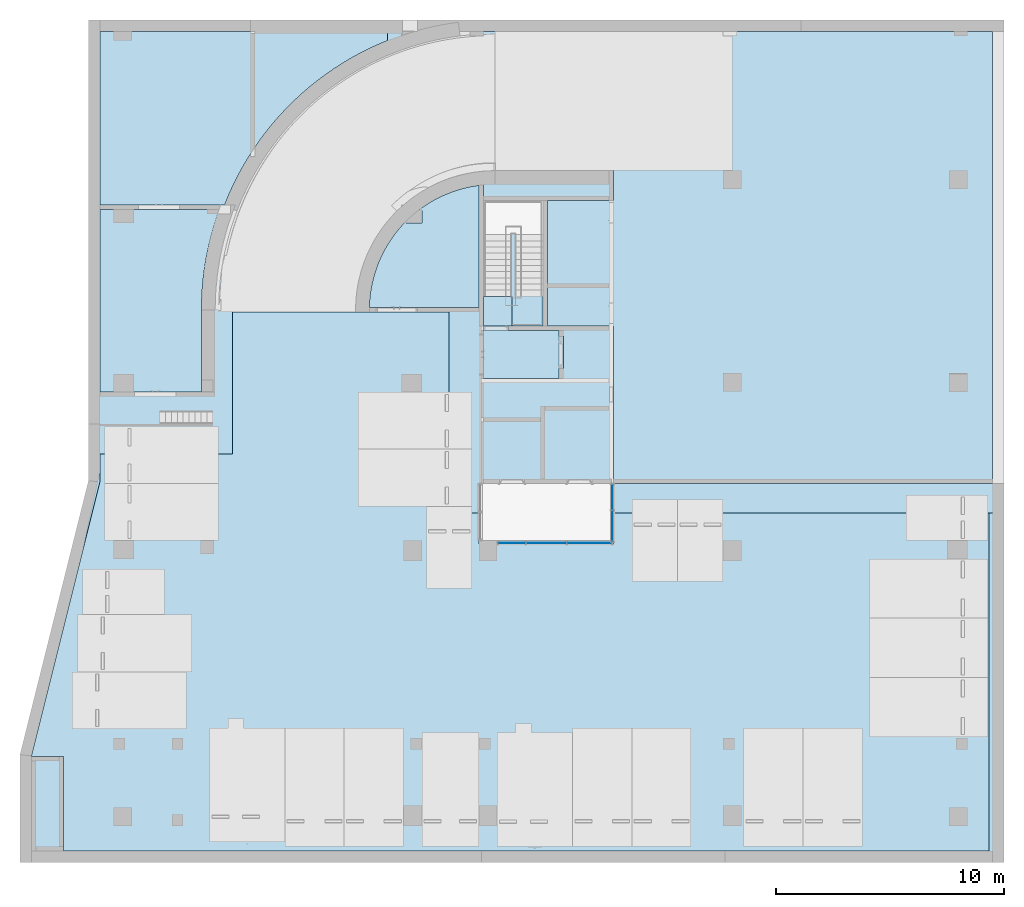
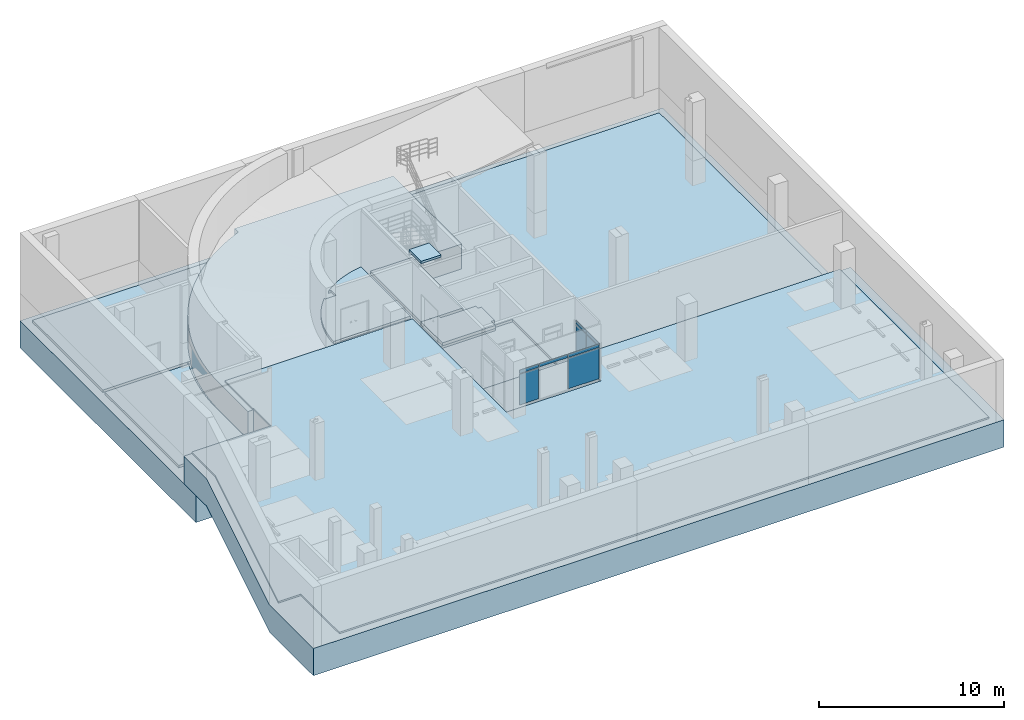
# One storey, part 4 of 30: 11 slabs, 9 plates, 3 elements without a shape of their own.
"""IFC2X3 building model written with IfcOpenShell, lengths in millimetres."""

from ifc_helpers import new_model, entity, si_unit, converted_unit, derived_unit, direction, frame, frame_2d, origin, origin_2d_with_axis, place, context, subcontext, project, spatial, polyline, circle_curve, parameter, trimmed, segment, composite_curve, rectangle, outline, extrude, source, transform, mapped, material, layer, layer_set, layer_usage, type_object, type_shapes, element, aggregate, save


model = new_model("IFC2X3")

# Units and contexts
model_context = context("Model", 3, precision=0.01, world=origin(), true_north=direction((6.123031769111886e-17, 1.0)))
body_context = subcontext(model_context, "Body", "Model", "MODEL_VIEW")
ifc_project = project(units=[si_unit("LENGTHUNIT", "METRE", prefix="MILLI"), si_unit("AREAUNIT", "SQUARE_METRE"), si_unit("VOLUMEUNIT", "CUBIC_METRE"), converted_unit("PLANEANGLEUNIT", "DEGREE", entity("IfcRatioMeasure", 0.017453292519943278), si_unit("PLANEANGLEUNIT", "RADIAN"), dimensions=[0, 0, 0, 0, 0, 0, 0]), si_unit("MASSUNIT", "GRAM", prefix="KILO"), derived_unit("MASSDENSITYUNIT", [(si_unit("MASSUNIT", "GRAM", prefix="KILO"), 1), (si_unit("LENGTHUNIT", "METRE"), -3)]), derived_unit("MOMENTOFINERTIAUNIT", [(si_unit("LENGTHUNIT", "METRE"), 4)]), si_unit("TIMEUNIT", "SECOND"), si_unit("FREQUENCYUNIT", "HERTZ"), si_unit("THERMODYNAMICTEMPERATUREUNIT", "DEGREE_CELSIUS"), derived_unit("THERMALTRANSMITTANCEUNIT", [(si_unit("MASSUNIT", "GRAM", prefix="KILO"), 1), (si_unit("THERMODYNAMICTEMPERATUREUNIT", "KELVIN"), -1), (si_unit("TIMEUNIT", "SECOND"), -3)]), derived_unit("VOLUMETRICFLOWRATEUNIT", [(si_unit("LENGTHUNIT", "METRE"), 3), (si_unit("TIMEUNIT", "SECOND"), -1)]), derived_unit("MASSFLOWRATEUNIT", [(si_unit("MASSUNIT", "GRAM", prefix="KILO"), 1), (si_unit("TIMEUNIT", "SECOND"), -1)]), derived_unit("ROTATIONALFREQUENCYUNIT", [(si_unit("TIMEUNIT", "SECOND"), -1)]), si_unit("ELECTRICCURRENTUNIT", "AMPERE"), si_unit("ELECTRICVOLTAGEUNIT", "VOLT"), si_unit("POWERUNIT", "WATT"), si_unit("FORCEUNIT", "NEWTON", prefix="KILO"), si_unit("ILLUMINANCEUNIT", "LUX"), si_unit("LUMINOUSFLUXUNIT", "LUMEN"), si_unit("LUMINOUSINTENSITYUNIT", "CANDELA"), derived_unit("USERDEFINED", [(si_unit("MASSUNIT", "GRAM", prefix="KILO"), -1), (si_unit("LENGTHUNIT", "METRE"), -2), (si_unit("TIMEUNIT", "SECOND"), 3), (si_unit("LUMINOUSFLUXUNIT", "LUMEN"), 1)]), derived_unit("SOUNDPOWERUNIT", [(si_unit("MASSUNIT", "GRAM", prefix="KILO"), 1), (si_unit("LENGTHUNIT", "METRE"), 2), (si_unit("TIMEUNIT", "SECOND"), -3)]), derived_unit("SOUNDPRESSUREUNIT", [(si_unit("MASSUNIT", "GRAM", prefix="KILO"), 1), (si_unit("LENGTHUNIT", "METRE"), -1), (si_unit("TIMEUNIT", "SECOND"), -2)]), derived_unit("LINEARVELOCITYUNIT", [(si_unit("LENGTHUNIT", "METRE"), 1), (si_unit("TIMEUNIT", "SECOND"), -1)]), si_unit("PRESSUREUNIT", "PASCAL"), derived_unit("USERDEFINED", [(si_unit("LENGTHUNIT", "METRE"), -2), (si_unit("MASSUNIT", "GRAM", prefix="KILO"), 1), (si_unit("TIMEUNIT", "SECOND"), -2)]), derived_unit("LINEARFORCEUNIT", [(si_unit("MASSUNIT", "GRAM", prefix="KILO"), 1), (si_unit("LENGTHUNIT", "METRE"), 1), (si_unit("TIMEUNIT", "SECOND"), -2), (si_unit("LENGTHUNIT", "METRE"), -1)]), derived_unit("PLANARFORCEUNIT", [(si_unit("MASSUNIT", "GRAM", prefix="KILO"), 1), (si_unit("LENGTHUNIT", "METRE"), 1), (si_unit("TIMEUNIT", "SECOND"), -2), (si_unit("LENGTHUNIT", "METRE"), -2)])], contexts=[model_context])

# Site, building, storey
site_placement = place(None, frame((-14167.972527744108, -657.2125860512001, 0.0)))
site = spatial("IfcSite", under=ifc_project, at=site_placement, Name="Default", CompositionType="ELEMENT")
building_placement = place(site_placement, origin())
building = spatial("IfcBuilding", under=site, at=building_placement, Name="Sample Building", CompositionType="ELEMENT")
storey_placement = place(building_placement, frame((0.0, 0.0, -10100.0)))
storey = spatial("IfcBuildingStorey", under=building, at=storey_placement, Name="지하2층", CompositionType="ELEMENT", Elevation=-10100.0)

# Slabs
ifc_material_1 = material(Name="KBIMS-콘크리트")
ifc_layer_1 = layer(ifc_material_1, 1800.0000000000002)
ifc_layer_set_1 = layer_set([ifc_layer_1], Name="기초 슬래브:FT113-매트기초(기초슬래브)_MF1_1800mm")
ifc_layer_usage_1 = layer_usage(ifc_layer_set_1, "AXIS3", "POSITIVE", 0.0)
slab_type_1 = type_object("IfcSlabType", Name="기초 슬래브:FT113-매트기초(기초슬래브)_MF1_1800mm", PredefinedType="BASESLAB", material=ifc_layer_set_1)
slab_1_placement = place(storey_placement, origin())
element("IfcSlab", 1, at=slab_1_placement, inside=storey, type_object=slab_type_1, material=ifc_layer_usage_1, Name="기초 슬래브:FT113-매트기초(기초슬래브)_MF1_1800mm", ObjectType="기초 슬래브:FT113-매트기초(기초슬래브)_MF1_1800mm", PredefinedType="BASESLAB", context=body_context, shape_type="SweptSolid", body=[
    extrude(outline(composite_curve([segment(polyline([(-20735.97253739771, -16272.015692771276), (-16011.351412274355, -16272.015692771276)]), True, "CONTINUOUS"), segment(polyline([(-16011.351412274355, -16272.015692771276), (-4011.3514122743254, -13272.01569277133)]), True, "CONTINUOUS"), segment(polyline([(-4011.3514122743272, -13272.01569277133), (-1535.9725373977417, -13272.015692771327)]), True, "CONTINUOUS"), segment(polyline([(-1535.9725373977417, -13272.015692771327), (-1535.9725373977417, -7822.024385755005)]), True, "CONTINUOUS"), segment(polyline([(-1535.9725373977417, -7822.024385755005), (364.02746260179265, -7822.024385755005)]), True, "CONTINUOUS"), segment(polyline([(364.02746260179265, -7822.024385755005), (364.02746260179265, -8172.022483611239)]), True, "CONTINUOUS"), segment(polyline([(364.02746260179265, -8172.022483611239), (3464.0552830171, -8172.01569274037)]), True, "CONTINUOUS"), segment(trimmed(circle_curve(frame_2d((3464.027462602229, 4527.984307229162), x_axis=(2.1905834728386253e-06, -1.0)), 12700.000000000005), [parameter(0.0)], [parameter(68.27940101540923)], True, "PARAMETER"), True, "CONTINUOUS"), segment(polyline([(15262.33242560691, -172.0156927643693), (15663.992779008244, -172.0156927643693)]), True, "CONTINUOUS"), segment(polyline([(15663.992779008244, -172.0156927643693), (15663.992779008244, 9727.984307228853)]), True, "CONTINUOUS"), segment(polyline([(15663.992779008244, 9727.984307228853), (8264.027462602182, 9727.98430722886)]), True, "CONTINUOUS"), segment(polyline([(8264.027462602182, 9727.98430722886), (8264.027462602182, 5327.984307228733)]), True, "CONTINUOUS"), segment(polyline([(8264.027462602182, 5327.984307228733), (2764.0274659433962, 5327.984307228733)]), True, "CONTINUOUS"), segment(polyline([(2764.0274659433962, 5327.984307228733), (2764.0274659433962, 3826.1376305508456)]), True, "CONTINUOUS"), segment(polyline([(2764.0274659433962, 3826.1376305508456), (-4135.972537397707, 3826.1376305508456)]), True, "CONTINUOUS"), segment(polyline([(-4135.972537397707, 3826.1376305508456), (-4135.972537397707, 26827.984307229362)]), True, "CONTINUOUS"), segment(polyline([(-4135.972537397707, 26827.984307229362), (-20735.97253739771, 26827.984307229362)]), True, "CONTINUOUS"), segment(polyline([(-20735.97253739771, 26827.984307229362), (-20735.97253739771, -16272.015692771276)]), True, "CONTINUOUS")], self_intersect=False)), frame((26239.98818390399, 19693.184845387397, 0.0), z_axis=(0.0, 0.0, -1.0), x_axis=(0.0, 1.0, 0.0)), (0.0, 0.0, 1.0), 1800.0000000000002),
])
ifc_layer_usage_2 = layer_usage(ifc_layer_set_1, "AXIS3", "POSITIVE", 0.0)
slab_type_2 = type_object("IfcSlabType", Name="기초 슬래브:FT113-매트기초(기초슬래브)_MF1_1800mm", PredefinedType="BASESLAB", material=ifc_layer_set_1)
slab_2_placement = place(storey_placement, origin())
element("IfcSlab", 2, at=slab_2_placement, inside=storey, type_object=slab_type_2, material=ifc_layer_usage_2, Name="기초 슬래브:FT113-매트기초(기초슬래브)_MF1_1800mm", ObjectType="기초 슬래브:FT113-매트기초(기초슬래브)_MF1_1800mm", PredefinedType="BASESLAB", context=body_context, shape_type="SweptSolid", body=[
    extrude(outline(composite_curve([segment(polyline([(-10172.905853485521, -6899.997102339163), (8827.094146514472, -6899.997102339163)]), True, "CONTINUOUS"), segment(polyline([(8827.094146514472, -6899.997102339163), (8827.094146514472, 7500.0028976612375)]), True, "CONTINUOUS"), segment(polyline([(8827.094146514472, 7500.0028976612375), (6764.529267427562, 7500.002897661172)]), True, "CONTINUOUS"), segment(trimmed(circle_curve(frame_2d((-4072.905853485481, 10700.002897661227), x_axis=(0.959065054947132, -0.283185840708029)), 11299.999999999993), [parameter(286.450438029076)], [parameter(0.0)], True, "PARAMETER"), False, "CONTINUOUS"), segment(polyline([(-4072.9058534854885, -600.0057953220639), (-10172.905853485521, -600.0057953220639)]), True, "CONTINUOUS"), segment(polyline([(-10172.905853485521, -600.0057953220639), (-10172.905853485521, -6899.997102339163)]), True, "CONTINUOUS")], self_intersect=False)), frame((19867.96959347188, 27030.118161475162, -1800.0), z_axis=(0.0, 0.0, -1.0), x_axis=(0.0, 1.0, 0.0)), (0.0, 0.0, 1.0), 1800.0000000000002),
])
ifc_material_2 = material(Name="SL671-에폭시페인트 바닥 (내산, 로울러칠, 3회)")
ifc_layer_2 = layer(ifc_material_2, 3.0)
ifc_material_3 = material(Name="SL582-무근콘크리트 바닥 97mm")
ifc_layer_3 = layer(ifc_material_3, 95.00000000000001)
ifc_material_4 = material(Name="SL789-와이어매쉬 #8 150x150")
ifc_layer_4 = layer(ifc_material_4, 1.0)
ifc_material_5 = material(Name="SL555-쇠흙손마감 바닥 (콘크리트면)")
ifc_layer_5 = layer(ifc_material_5, 1.0)
ifc_layer_set_2 = layer_set([ifc_layer_2, ifc_layer_3, ifc_layer_4, ifc_layer_5], Name="바닥:A1-12-09B-쇠흙손마감, 와이어매쉬(#8 150x150), 무근콘크리트, 에폭시페인트 (100mm)")
ifc_layer_usage_3 = layer_usage(ifc_layer_set_2, "AXIS3", "POSITIVE", 0.0)
slab_type_3 = type_object("IfcSlabType", Name="바닥:A1-12-09B-쇠흙손마감, 와이어매쉬(#8 150x150), 무근콘크리트, 에폭시페인트 (100mm)", PredefinedType="FLOOR", material=ifc_layer_set_2)
slab_3_placement = place(storey_placement, origin())
element("IfcSlab", 3, at=slab_3_placement, inside=storey, type_object=slab_type_3, material=ifc_layer_usage_3, Name="바닥:A1-12-09B-쇠흙손마감, 와이어매쉬(#8 150x150), 무근콘크리트, 에폭시페인트 (100mm)", ObjectType="바닥:A1-12-09B-쇠흙손마감, 와이어매쉬(#8 150x150), 무근콘크리트, 에폭시페인트 (100mm)", PredefinedType="FLOOR", context=body_context, shape_type="SweptSolid", body=[
    extrude(outline(polyline([(-27637.199280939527, -13958.06298623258), (12897.695211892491, -13958.06298623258), (12897.695211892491, -9812.36147357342), (14312.03683858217, -9812.36147357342), (11307.6951386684, 2205.005326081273), (11307.695138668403, 4741.937013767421), (6357.703831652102, 4741.937013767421), (6357.703831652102, 6641.937013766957), (6407.699669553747, 6641.937013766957), (6407.69307977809, 9650.173185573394), (-5292.304833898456, 9650.173185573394), (-5292.304833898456, -508.0627081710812), (-11197.304861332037, -508.0627081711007), (-11197.304861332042, 2141.937291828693), (-27637.199280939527, 2141.937291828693), (-27637.199280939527, -13958.06298623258)])), frame((24775.66762980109, 13415.275294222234, 100.0), z_axis=(0.0, 0.0, -1.0), x_axis=(-1.0, 0.0, 0.0)), (0.0, 0.0, 1.0), 99.99999999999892),
])
ifc_material_6 = material(Name="SL322-대리석물갈기 바닥 (바탕60mm, 마감20mm)")
ifc_layer_6 = layer(ifc_material_6, 80.0)
ifc_material_7 = material(Name="SL582-무근콘크리트 바닥 100mm")
ifc_layer_7 = layer(ifc_material_7, 99.0)
ifc_layer_8 = layer(ifc_material_4, 1.0)
ifc_material_8 = material(Name="SL553-보호모르타르 바닥 20mm")
ifc_layer_9 = layer(ifc_material_8, 18.0)
ifc_material_9 = material(Name="SL541-침투성방수 바닥")
ifc_layer_10 = layer(ifc_material_9, 1.0)
ifc_layer_11 = layer(ifc_material_5, 1.0)
ifc_layer_set_3 = layer_set([ifc_layer_6, ifc_layer_7, ifc_layer_8, ifc_layer_9, ifc_layer_10, ifc_layer_11], Name="바닥:A1-15-09B-쇠흙손마감, 침투성방수(2차), 시멘트모르타르(보호용), 와이어매쉬(#8 150x150), 무근콘크리트, 대리석(물갈기) (200mm)")
ifc_layer_usage_4 = layer_usage(ifc_layer_set_3, "AXIS3", "POSITIVE", 0.0)
slab_type_4 = type_object("IfcSlabType", Name="바닥:A1-15-09B-쇠흙손마감, 침투성방수(2차), 시멘트모르타르(보호용), 와이어매쉬(#8 150x150), 무근콘크리트, 대리석(물갈기) (200mm)", PredefinedType="FLOOR", material=ifc_layer_set_3)
slab_4_placement = place(storey_placement, origin())
element("IfcSlab", 4, at=slab_4_placement, inside=storey, type_object=slab_type_4, material=ifc_layer_usage_4, Name="바닥:A1-15-09B-쇠흙손마감, 침투성방수(2차), 시멘트모르타르(보호용), 와이어매쉬(#8 150x150), 무근콘크리트, 대리석(물갈기) (200mm)", ObjectType="바닥:A1-15-09B-쇠흙손마감, 침투성방수(2차), 시멘트모르타르(보호용), 와이어매쉬(#8 150x150), 무근콘크리트, 대리석(물갈기) (200mm)", PredefinedType="FLOOR", context=body_context, shape_type="SweptSolid", body=[
    extrude(rectangle(XDim=5499.999996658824, YDim=2601.8466766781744, at=origin_2d_with_axis()), frame((31567.049152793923, 25207.21230966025, 200.0), z_axis=(0.0, 0.0, -1.0), x_axis=(0.0, 1.0, 0.0)), (0.0, 0.0, 1.0), 200.0),
])
ifc_layer_usage_5 = layer_usage(ifc_layer_set_3, "AXIS3", "POSITIVE", 0.0)
slab_type_5 = type_object("IfcSlabType", Name="바닥:A1-15-09B-쇠흙손마감, 침투성방수(2차), 시멘트모르타르(보호용), 와이어매쉬(#8 150x150), 무근콘크리트, 대리석(물갈기) (200mm)", PredefinedType="FLOOR", material=ifc_layer_set_3)
slab_5_placement = place(storey_placement, origin())
element("IfcSlab", 5, at=slab_5_placement, inside=storey, type_object=slab_type_5, material=ifc_layer_usage_5, Name="바닥:A1-15-09B-쇠흙손마감, 침투성방수(2차), 시멘트모르타르(보호용), 와이어매쉬(#8 150x150), 무근콘크리트, 대리석(물갈기) (200mm)", ObjectType="바닥:A1-15-09B-쇠흙손마감, 침투성방수(2차), 시멘트모르타르(보호용), 와이어매쉬(#8 150x150), 무근콘크리트, 대리석(물갈기) (200mm)", PredefinedType="FLOOR", context=body_context, shape_type="SweptSolid", body=[
    extrude(outline(polyline([(-1467.0439162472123, -1868.2055462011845), (632.956087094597, -1868.2055462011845), (632.9560870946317, -1866.3589226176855), (832.9560870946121, -1866.3589226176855), (832.9560870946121, -766.3589226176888), (632.956087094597, -766.3589226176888), (632.956087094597, 1433.6411304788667), (395.21956953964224, 1433.6411304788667), (395.21956953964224, 1633.6411304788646), (-1027.0439145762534, 1633.6411304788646), (-1027.0439145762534, 1433.6411304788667), (-1467.0439162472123, 1433.6411304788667), (-1467.0439162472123, -1868.2055462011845)])), frame((32134.33136065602, 21624.25622423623, 200.0), z_axis=(0.0, 0.0, -1.0), x_axis=(0.0, 1.0, 0.0)), (0.0, 0.0, 1.0), 200.0),
])
ifc_material_10 = material(Name="SL661-우레탄페인트 바닥")
ifc_layer_12 = layer(ifc_material_10, 1.0)
ifc_material_11 = material(Name="SL552-바탕고르기(시멘트모르타르) 바닥 30mm")
ifc_layer_13 = layer(ifc_material_11, 29.0)
ifc_layer_14 = layer(ifc_material_7, 99.0)
ifc_layer_15 = layer(ifc_material_4, 1.0)
ifc_material_12 = material(Name="SL531-시멘트액체방수 바닥 (2차 30mm)")
ifc_layer_16 = layer(ifc_material_12, 30.0)
ifc_layer_set_4 = layer_set([ifc_layer_12, ifc_layer_13, ifc_layer_14, ifc_layer_15, ifc_layer_16], Name="바닥:A1-12-13B-시멘트 액체방수(2차), 와이어매쉬(#8 150x150), 무근콘크리트, 시멘트모르타르(고름용), 우레탄페인트 (160mm)")
ifc_layer_usage_6 = layer_usage(ifc_layer_set_4, "AXIS3", "POSITIVE", 0.0)
slab_type_6 = type_object("IfcSlabType", Name="바닥:A1-12-13B-시멘트 액체방수(2차), 와이어매쉬(#8 150x150), 무근콘크리트, 시멘트모르타르(고름용), 우레탄페인트 (160mm)", PredefinedType="FLOOR", material=ifc_layer_set_4)
slab_6_placement = place(storey_placement, origin())
element("IfcSlab", 6, at=slab_6_placement, inside=storey, type_object=slab_type_6, material=ifc_layer_usage_6, Name="바닥:A1-12-13B-시멘트 액체방수(2차), 와이어매쉬(#8 150x150), 무근콘크리트, 시멘트모르타르(고름용), 우레탄페인트 (160mm)", ObjectType="바닥:A1-12-13B-시멘트 액체방수(2차), 와이어매쉬(#8 150x150), 무근콘크리트, 시멘트모르타르(고름용), 우레탄페인트 (160mm)", PredefinedType="FLOOR", context=body_context, shape_type="SweptSolid", body=[
    extrude(outline(composite_curve([segment(polyline([(-2351.731369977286, 3133.677072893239), (-2351.731369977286, -2221.3583295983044)]), True, "CONTINUOUS"), segment(trimmed(circle_curve(frame_2d((-3053.5780466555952, 3233.677072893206), x_axis=(0.6090869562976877, -0.7931034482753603)), 5500.00000000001), [parameter(329.807904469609)], [parameter(0.0)], True, "PARAMETER"), True, "CONTINUOUS"), segment(polyline([(296.40021298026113, -1128.3918926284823), (146.4219167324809, -1128.3918926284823)]), True, "CONTINUOUS"), segment(polyline([(146.4219167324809, -1128.3918926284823), (146.4219167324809, -566.3229271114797)]), True, "CONTINUOUS"), segment(polyline([(146.4219167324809, -566.3229271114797), (834.3529531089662, -566.3229271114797)]), True, "CONTINUOUS"), segment(polyline([(834.3529531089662, -566.3229271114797), (834.3529531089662, -656.5661767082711)]), True, "CONTINUOUS"), segment(trimmed(circle_curve(frame_2d((-3053.5780466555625, 3233.6770728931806), x_axis=(0.9998346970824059, -0.01818181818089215)), 5499.999999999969), [parameter(316.02476629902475)], [parameter(0.0)], True, "PARAMETER"), True, "CONTINUOUS"), segment(polyline([(2445.5127872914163, 3133.677072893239), (-2351.731369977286, 3133.677072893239)]), True, "CONTINUOUS")], self_intersect=False)), frame((27714.39444447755, 26390.88938088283, 160.0), z_axis=(0.0, 0.0, 1.0), x_axis=(-1.0, 0.0, 0.0)), (0.0, 0.0, -1.0), 160.00000000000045),
])

# Curtain wall, plates
curtain_wall_type = type_object("IfcCurtainWallType", Name="커튼월:CW112-스테인리스 스틸 커튼월", PredefinedType="NOTDEFINED")
curtain_wall_1_placement = place(storey_placement, frame((0.0, 0.0, 10100.0)))
curtain_wall_1 = element("IfcCurtainWall", 7, at=curtain_wall_1_placement, inside=storey, type_object=curtain_wall_type, Name="커튼월:CW112-스테인리스 스틸 커튼월", ObjectType="커튼월:CW112-스테인리스 스틸 커튼월")
ifc_material_13 = material(Name="KBIMS-로이유리(코팅)")
plate_type_1 = type_object("IfcPlateType", Name="CW300-THK24.Low-e coating glass:CW300-THK24.Low-e coating glass", PredefinedType="CURTAIN_PANEL", material=ifc_material_13)
shared_shape_1 = source(origin(), body_context, "Body", "SweptSolid", [
    extrude(rectangle(XDim=1175.0000000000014, YDim=24.000000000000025, at=origin_2d_with_axis()), frame((0.0, 0.0, 0.0), z_axis=(0.0, 0.0, 1.0), x_axis=(-1.0, 0.0, 0.0)), (0.0, 0.0, 1.0), 2024.9999999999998),
])
type_shapes(plate_type_1, [shared_shape_1])
plate_1_placement = place(curtain_wall_1_placement, frame((31505.47249113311, 12957.212586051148, -9850.0)))
plate_1 = element("IfcPlate", 8, at=plate_1_placement, type_object=plate_type_1, material=ifc_material_13, Name="CW300-THK24.Low-e coating glass:CW300-THK24.Low-e coating glass", ObjectType="CW300-THK24.Low-e coating glass:CW300-THK24.Low-e coating glass", context=body_context, shape_type="MappedRepresentation", body=[
    mapped(shared_shape_1, transform((0.0, 0.0, 0.0), scale=1.0)),
])
plate_type_2 = type_object("IfcPlateType", Name="CW300-THK24.Low-e coating glass:CW300-THK24.Low-e coating glass", PredefinedType="CURTAIN_PANEL", material=ifc_material_13)
shared_shape_2 = source(origin(), body_context, "Body", "SweptSolid", [
    extrude(rectangle(XDim=1929.999999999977, YDim=24.000000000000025, at=origin_2d_with_axis()), frame((0.0, 0.0, 0.0), z_axis=(0.0, 0.0, 1.0), x_axis=(-1.0, 0.0, 0.0)), (0.0, 0.0, 1.0), 2024.9999999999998),
])
type_shapes(plate_type_2, [shared_shape_2])
plate_2_placement = place(curtain_wall_1_placement, frame((34907.972491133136, 12957.212586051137, -9850.0)))
plate_2 = element("IfcPlate", 9, at=plate_2_placement, type_object=plate_type_2, material=ifc_material_13, Name="CW300-THK24.Low-e coating glass:CW300-THK24.Low-e coating glass", ObjectType="CW300-THK24.Low-e coating glass:CW300-THK24.Low-e coating glass", context=body_context, shape_type="MappedRepresentation", body=[
    mapped(shared_shape_2, transform((0.0, 0.0, 0.0), scale=1.0)),
])
plate_type_3 = type_object("IfcPlateType", Name="CW300-THK24.Low-e coating glass:CW300-THK24.Low-e coating glass", PredefinedType="CURTAIN_PANEL", material=ifc_material_13)
shared_shape_3 = source(origin(), body_context, "Body", "SweptSolid", [
    extrude(rectangle(XDim=1175.0000000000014, YDim=24.000000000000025, at=origin_2d_with_axis()), frame((0.0, 0.0, 0.0), z_axis=(0.0, 0.0, 1.0), x_axis=(-1.0, 0.0, 0.0)), (0.0, 0.0, 1.0), 215.00000000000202),
])
type_shapes(plate_type_3, [shared_shape_3])
plate_3_placement = place(curtain_wall_1_placement, frame((31505.47249113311, 12957.212586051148, -7775.0)))
plate_3 = element("IfcPlate", 10, at=plate_3_placement, type_object=plate_type_3, material=ifc_material_13, Name="CW300-THK24.Low-e coating glass:CW300-THK24.Low-e coating glass", ObjectType="CW300-THK24.Low-e coating glass:CW300-THK24.Low-e coating glass", context=body_context, shape_type="MappedRepresentation", body=[
    mapped(shared_shape_3, transform((0.0, 0.0, 0.0), scale=1.0)),
])
plate_type_4 = type_object("IfcPlateType", Name="CW300-THK24.Low-e coating glass:CW300-THK24.Low-e coating glass", PredefinedType="CURTAIN_PANEL", material=ifc_material_13)
shared_shape_4 = source(origin(), body_context, "Body", "SweptSolid", [
    extrude(rectangle(XDim=1750.0000000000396, YDim=24.000000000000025, at=origin_2d_with_axis()), frame((0.0, 0.0, 0.0), z_axis=(0.0, 0.0, 1.0), x_axis=(-1.0, 0.0, 0.0)), (0.0, 0.0, 1.0), 215.00000000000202),
])
type_shapes(plate_type_4, [shared_shape_4])
plate_4_placement = place(curtain_wall_1_placement, frame((33017.97249113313, 12957.212586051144, -7775.0)))
plate_4 = element("IfcPlate", 11, at=plate_4_placement, type_object=plate_type_4, material=ifc_material_13, Name="CW300-THK24.Low-e coating glass:CW300-THK24.Low-e coating glass", ObjectType="CW300-THK24.Low-e coating glass:CW300-THK24.Low-e coating glass", context=body_context, shape_type="MappedRepresentation", body=[
    mapped(shared_shape_4, transform((0.0, 0.0, 0.0), scale=1.0)),
])
plate_type_5 = type_object("IfcPlateType", Name="CW300-THK24.Low-e coating glass:CW300-THK24.Low-e coating glass", PredefinedType="CURTAIN_PANEL", material=ifc_material_13)
shared_shape_5 = source(origin(), body_context, "Body", "SweptSolid", [
    extrude(rectangle(XDim=1929.999999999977, YDim=24.000000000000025, at=origin_2d_with_axis()), frame((0.0, 0.0, 0.0), z_axis=(0.0, 0.0, 1.0), x_axis=(-1.0, 0.0, 0.0)), (0.0, 0.0, 1.0), 215.00000000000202),
])
type_shapes(plate_type_5, [shared_shape_5])
plate_5_placement = place(curtain_wall_1_placement, frame((34907.972491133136, 12957.212586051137, -7775.0)))
plate_5 = element("IfcPlate", 12, at=plate_5_placement, type_object=plate_type_5, material=ifc_material_13, Name="CW300-THK24.Low-e coating glass:CW300-THK24.Low-e coating glass", ObjectType="CW300-THK24.Low-e coating glass:CW300-THK24.Low-e coating glass", context=body_context, shape_type="MappedRepresentation", body=[
    mapped(shared_shape_5, transform((0.0, 0.0, 0.0), scale=1.0)),
])
aggregate(curtain_wall_1, [plate_1, plate_2, plate_3, plate_4, plate_5])

curtain_wall_2_placement = place(storey_placement, frame((0.0, 0.0, 10100.0)))
curtain_wall_2 = element("IfcCurtainWall", 13, at=curtain_wall_2_placement, inside=storey, type_object=curtain_wall_type, Name="커튼월:CW112-스테인리스 스틸 커튼월", ObjectType="커튼월:CW112-스테인리스 스틸 커튼월")
plate_type_6 = type_object("IfcPlateType", Name="CW300-THK24.Low-e coating glass:CW300-THK24.Low-e coating glass", PredefinedType="CURTAIN_PANEL", material=ifc_material_13)
shared_shape_6 = source(origin(), body_context, "Body", "SweptSolid", [
    extrude(rectangle(XDim=1091.6846727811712, YDim=24.000000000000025, at=origin_2d_with_axis()), frame((0.0, 0.0, 0.0), z_axis=(0.0, 0.0, 1.0), x_axis=(-1.0, 0.0, 0.0)), (0.0, 0.0, 1.0), 2024.9999999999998),
])
type_shapes(plate_type_6, [shared_shape_6])
plate_6_placement = place(curtain_wall_2_placement, frame((35922.97249113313, 14961.370249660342, -9850.0), z_axis=(0.0, 0.0, 1.0), x_axis=(0.0, -1.0, 0.0)))
plate_6 = element("IfcPlate", 14, at=plate_6_placement, type_object=plate_type_6, material=ifc_material_13, Name="CW300-THK24.Low-e coating glass:CW300-THK24.Low-e coating glass", ObjectType="CW300-THK24.Low-e coating glass:CW300-THK24.Low-e coating glass", context=body_context, shape_type="MappedRepresentation", body=[
    mapped(shared_shape_6, transform((0.0, 0.0, 0.0), scale=1.0)),
])
plate_type_7 = type_object("IfcPlateType", Name="CW300-THK24.Low-e coating glass:CW300-THK24.Low-e coating glass", PredefinedType="CURTAIN_PANEL", material=ifc_material_13)
shared_shape_7 = source(origin(), body_context, "Body", "SweptSolid", [
    extrude(rectangle(XDim=1358.3153272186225, YDim=24.000000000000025, at=origin_2d_with_axis()), frame((0.0, 0.0, 0.0), z_axis=(0.0, 0.0, 1.0), x_axis=(-1.0, 0.0, 0.0)), (0.0, 0.0, 1.0), 2024.9999999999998),
])
type_shapes(plate_type_7, [shared_shape_7])
plate_7_placement = place(curtain_wall_2_placement, frame((35922.97249113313, 13686.370249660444, -9850.0), z_axis=(0.0, 0.0, 1.0), x_axis=(0.0, -1.0, 0.0)))
plate_7 = element("IfcPlate", 15, at=plate_7_placement, type_object=plate_type_7, material=ifc_material_13, Name="CW300-THK24.Low-e coating glass:CW300-THK24.Low-e coating glass", ObjectType="CW300-THK24.Low-e coating glass:CW300-THK24.Low-e coating glass", context=body_context, shape_type="MappedRepresentation", body=[
    mapped(shared_shape_7, transform((0.0, 0.0, 0.0), scale=1.0)),
])
plate_type_8 = type_object("IfcPlateType", Name="CW300-THK24.Low-e coating glass:CW300-THK24.Low-e coating glass", PredefinedType="CURTAIN_PANEL", material=ifc_material_13)
shared_shape_8 = source(origin(), body_context, "Body", "SweptSolid", [
    extrude(rectangle(XDim=1091.6846727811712, YDim=24.000000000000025, at=origin_2d_with_axis()), frame((0.0, 0.0, 0.0), z_axis=(0.0, 0.0, 1.0), x_axis=(-1.0, 0.0, 0.0)), (0.0, 0.0, 1.0), 215.00000000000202),
])
type_shapes(plate_type_8, [shared_shape_8])
plate_8_placement = place(curtain_wall_2_placement, frame((35922.97249113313, 14961.370249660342, -7775.0), z_axis=(0.0, 0.0, 1.0), x_axis=(0.0, -1.0, 0.0)))
plate_8 = element("IfcPlate", 16, at=plate_8_placement, type_object=plate_type_8, material=ifc_material_13, Name="CW300-THK24.Low-e coating glass:CW300-THK24.Low-e coating glass", ObjectType="CW300-THK24.Low-e coating glass:CW300-THK24.Low-e coating glass", context=body_context, shape_type="MappedRepresentation", body=[
    mapped(shared_shape_8, transform((0.0, 0.0, 0.0), scale=1.0)),
])
plate_type_9 = type_object("IfcPlateType", Name="CW300-THK24.Low-e coating glass:CW300-THK24.Low-e coating glass", PredefinedType="CURTAIN_PANEL", material=ifc_material_13)
shared_shape_9 = source(origin(), body_context, "Body", "SweptSolid", [
    extrude(rectangle(XDim=1358.3153272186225, YDim=24.000000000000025, at=origin_2d_with_axis()), frame((0.0, 0.0, 0.0), z_axis=(0.0, 0.0, 1.0), x_axis=(-1.0, 0.0, 0.0)), (0.0, 0.0, 1.0), 215.00000000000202),
])
type_shapes(plate_type_9, [shared_shape_9])
plate_9_placement = place(curtain_wall_2_placement, frame((35922.97249113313, 13686.370249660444, -7775.0), z_axis=(0.0, 0.0, 1.0), x_axis=(0.0, -1.0, 0.0)))
plate_9 = element("IfcPlate", 17, at=plate_9_placement, type_object=plate_type_9, material=ifc_material_13, Name="CW300-THK24.Low-e coating glass:CW300-THK24.Low-e coating glass", ObjectType="CW300-THK24.Low-e coating glass:CW300-THK24.Low-e coating glass", context=body_context, shape_type="MappedRepresentation", body=[
    mapped(shared_shape_9, transform((0.0, 0.0, 0.0), scale=1.0)),
])
aggregate(curtain_wall_2, [plate_6, plate_7, plate_8, plate_9])

# Slabs
ifc_layer_usage_7 = layer_usage(ifc_layer_set_1, "AXIS3", "POSITIVE", 0.0)
slab_type_7 = type_object("IfcSlabType", Name="기초 슬래브:FT113-매트기초(기초슬래브)_MF1_1800mm", PredefinedType="BASESLAB", material=ifc_layer_set_1)
slab_7_placement = place(storey_placement, origin())
element("IfcSlab", 18, at=slab_7_placement, inside=storey, type_object=slab_type_7, material=ifc_layer_usage_7, Name="기초 슬래브:FT113-매트기초(기초슬래브)_MF1_1800mm", ObjectType="기초 슬래브:FT113-매트기초(기초슬래브)_MF1_1800mm", PredefinedType="BASESLAB", context=body_context, shape_type="SweptSolid", body=[
    extrude(outline(polyline([(-11527.932021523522, -7876.385007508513), (-2024.0226572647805, -7876.385007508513), (-2024.022657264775, -6374.5383308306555), (3475.9773393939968, -6374.538330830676), (3475.977339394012, -2174.5383308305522), (10075.977339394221, -2174.5383308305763), (10075.97733939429, 16425.461669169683), (-11527.932021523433, 16425.46166916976), (-11527.932021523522, -7876.385007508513)])), frame((36642.51082196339, 25781.234968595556, -1800.0), z_axis=(0.0, 0.0, -1.0), x_axis=(0.0, 1.0, 0.0)), (0.0, 0.0, 1.0), 1800.0000000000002),
])
ifc_layer_usage_8 = layer_usage(ifc_layer_set_4, "AXIS3", "POSITIVE", 0.0)
slab_type_8 = type_object("IfcSlabType", Name="바닥:A1-12-13B-시멘트 액체방수(2차), 와이어매쉬(#8 150x150), 무근콘크리트, 시멘트모르타르(고름용), 우레탄페인트 (160mm)", PredefinedType="FLOOR", material=ifc_layer_set_4)
slab_8_placement = place(storey_placement, origin())
element("IfcSlab", 19, at=slab_8_placement, inside=storey, type_object=slab_type_8, material=ifc_layer_usage_8, Name="바닥:A1-12-13B-시멘트 액체방수(2차), 와이어매쉬(#8 150x150), 무근콘크리트, 시멘트모르타르(고름용), 우레탄페인트 (160mm)", ObjectType="바닥:A1-12-13B-시멘트 액체방수(2차), 와이어매쉬(#8 150x150), 무근콘크리트, 시멘트모르타르(고름용), 우레탄페인트 (160mm)", PredefinedType="FLOOR", context=body_context, shape_type="SweptSolid", body=[
    extrude(outline(polyline([(-2874.022657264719, -6325.0), (2625.977339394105, -6325.0), (2625.977339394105, -3425.0), (10025.977339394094, -3425.0), (10025.977339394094, 13175.0), (-9777.932021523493, 13175.0), (-9777.932021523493, -3425.0), (-2874.022657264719, -3425.0), (-2874.022657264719, -6325.0)])), frame((39392.972491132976, 25331.23496859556, -1640.0), z_axis=(0.0, 0.0, -1.0), x_axis=(0.0, 1.0, 0.0)), (0.0, 0.0, 1.0), 160.00000000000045),
])
ifc_layer_usage_9 = layer_usage(ifc_layer_set_4, "AXIS3", "POSITIVE", 0.0)
slab_type_9 = type_object("IfcSlabType", Name="바닥:A1-12-13B-시멘트 액체방수(2차), 와이어매쉬(#8 150x150), 무근콘크리트, 시멘트모르타르(고름용), 우레탄페인트 (160mm)", PredefinedType="FLOOR", material=ifc_layer_set_4)
slab_9_placement = place(storey_placement, origin())
element("IfcSlab", 20, at=slab_9_placement, inside=storey, type_object=slab_type_9, material=ifc_layer_usage_9, Name="바닥:A1-12-13B-시멘트 액체방수(2차), 와이어매쉬(#8 150x150), 무근콘크리트, 시멘트모르타르(고름용), 우레탄페인트 (160mm)", ObjectType="바닥:A1-12-13B-시멘트 액체방수(2차), 와이어매쉬(#8 150x150), 무근콘크리트, 시멘트모르타르(고름용), 우레탄페인트 (160mm)", PredefinedType="FLOOR", context=body_context, shape_type="SweptSolid", body=[
    extrude(outline(composite_curve([segment(polyline([(-83.19408447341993, -4615.24861755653), (7516.805915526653, -4615.24861755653)]), True, "CONTINUOUS"), segment(polyline([(7516.805915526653, -4615.24861755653), (7516.805915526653, 7984.751382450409)]), True, "CONTINUOUS"), segment(polyline([(7516.805915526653, 7984.751382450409), (7115.111268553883, 7984.751382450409)]), True, "CONTINUOUS"), segment(trimmed(circle_curve(frame_2d((-4683.1928825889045, 12684.751920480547), x_axis=(0.9290003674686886, -0.3700787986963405)), 12699.999444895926), [parameter(312.95614330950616)], [parameter(0.0)], True, "PARAMETER"), False, "CONTINUOUS"), segment(polyline([(-83.19129707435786, 847.1013379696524), (-83.19129707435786, 697.0989850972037)]), True, "CONTINUOUS"), segment(trimmed(circle_curve(frame_2d((-4683.19833969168, 12534.747666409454), x_axis=(0.36220528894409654, -0.9320983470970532)), 12699.999649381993), [parameter(338.76440851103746)], [parameter(0.0)], True, "PARAMETER"), False, "CONTINUOUS"), segment(polyline([(-4683.175998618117, -165.25198295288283), (-8283.194084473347, -165.25831588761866)]), True, "CONTINUOUS"), segment(polyline([(-8283.194084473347, -165.25831588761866), (-8283.194084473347, -4615.24861755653)]), True, "CONTINUOUS"), segment(polyline([(-8283.194084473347, -4615.24861755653), (-283.1940844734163, -4615.24861755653)]), True, "CONTINUOUS"), segment(polyline([(-283.1940844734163, -4615.24861755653), (-283.1940844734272, 602.0030286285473)]), True, "CONTINUOUS"), segment(trimmed(circle_curve(frame_2d((-4683.194084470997, 12834.745975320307), x_axis=(0.3384615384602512, -0.9409802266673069)), 12999.999999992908), [parameter(0.0)], [parameter(0.9395740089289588)], True, "PARAMETER"), True, "CONTINUOUS"), segment(polyline([(-83.19408447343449, 675.7986524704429), (-83.1940844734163, -4615.24861755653)]), True, "CONTINUOUS")], self_intersect=False)), frame((18083.221108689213, 27840.406392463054, -1640.0), z_axis=(0.0, 0.0, -1.0), x_axis=(0.0, 1.0, 0.0)), (0.0, 0.0, 1.0), 160.00000000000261),
])
ifc_layer_17 = layer(ifc_material_1, 150.0)
ifc_layer_set_5 = layer_set([ifc_layer_17], Name="바닥:SL111-철근콘크리트구조 바닥 150mm_S1")
ifc_layer_usage_10 = layer_usage(ifc_layer_set_5, "AXIS3", "POSITIVE", 0.0)
slab_type_10 = type_object("IfcSlabType", Name="바닥:SL111-철근콘크리트구조 바닥 150mm_S1", PredefinedType="FLOOR", material=ifc_layer_set_5)
slab_10_placement = place(storey_placement, origin())
element("IfcSlab", 21, at=slab_10_placement, inside=storey, type_object=slab_type_10, material=ifc_layer_usage_10, Name="바닥:SL111-철근콘크리트구조 바닥 150mm_S1", ObjectType="바닥:SL111-철근콘크리트구조 바닥 150mm_S1", PredefinedType="FLOOR", context=body_context, shape_type="SweptSolid", body=[
    extrude(rectangle(XDim=2100.000003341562, YDim=3400.0000000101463, at=frame_2d((0.0, -2.1600499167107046e-12), x_axis=(1.0, 0.0))), frame((31866.125814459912, 21207.212309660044, 0.0), z_axis=(0.0, 0.0, -1.0), x_axis=(0.0, 1.0, 0.0)), (0.0, 0.0, 1.0), 150.00000000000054),
])

# Stair, slab
stair_placement = place(storey_placement, origin())
stair = element("IfcStair", 22, at=stair_placement, inside=storey, Name="현장타설 계단:계단", ObjectType="현장타설 계단:ST111-철근콘크리트구조 계단 (U형)", ShapeType="NOTDEFINED")
slab_type_11 = type_object("IfcSlabType", Name="일체형 계단참:일체형 계단참 150mm_철근콘크리트", PredefinedType="LANDING")
slab_11_placement = place(stair_placement, origin())
slab_11 = element("IfcSlab", 23, at=slab_11_placement, type_object=slab_type_11, material=ifc_material_1, Name="현장타설 계단:계단:5957725 Landing 2", ObjectType="일체형 계단참:일체형 계단참 150mm_철근콘크리트", PredefinedType="LANDING", context=body_context, shape_type="SweptSolid", body=[
    extrude(outline(polyline([(-461.6045718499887, -120.3537649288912), (-145.98853763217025, -120.3537649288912), (838.395395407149, -120.3537649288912), (838.395395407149, 29.646235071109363), (-145.98853763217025, 29.646235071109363), (-461.6045718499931, 241.1702086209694), (-461.6045718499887, 60.598616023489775), (-461.6045718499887, -120.3537649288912)])), frame((30266.12581445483, 23295.60770673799, 4060.59861602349), z_axis=(1.0, 0.0, 0.0), x_axis=(0.0, -1.0, 0.0)), (0.0, 0.0, 1.0), 1241.8466766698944),
])
aggregate(stair, [slab_11])

save(model, "model.ifc")
